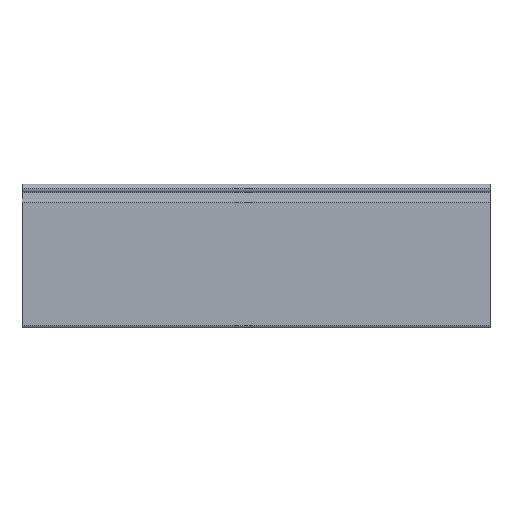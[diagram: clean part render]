
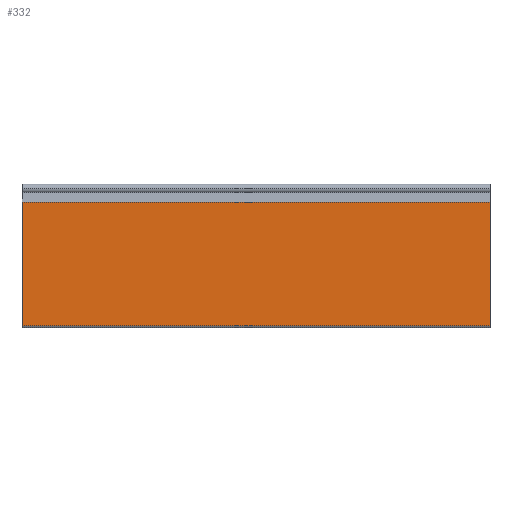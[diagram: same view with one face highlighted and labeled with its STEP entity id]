
A CAD part, top view. The second image highlights one B-rep face of the part: STEP entity #332.
In plain terms, the highlighted planar face has unit normal (0, 0, 1).
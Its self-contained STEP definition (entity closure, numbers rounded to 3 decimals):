
#28 = EDGE_CURVE ( 'NONE', #807, #475, #699, .T. ) ;
#99 = CARTESIAN_POINT ( 'NONE',  ( 208., -121.663, 4.05 ) ) ;
#100 = DIRECTION ( 'NONE',  ( -1., 0., 0. ) ) ;
#142 = PLANE ( 'NONE',  #598 ) ;
#159 = CARTESIAN_POINT ( 'NONE',  ( 208., -12.164, 4.05 ) ) ;
#168 = DIRECTION ( 'NONE',  ( 0., 0., -1. ) ) ;
#169 = DIRECTION ( 'NONE',  ( 0., 1., 0. ) ) ;
#247 = EDGE_CURVE ( 'NONE', #818, #485, #654, .T. ) ;
#260 = EDGE_CURVE ( 'NONE', #807, #818, #546, .T. ) ;
#261 = EDGE_CURVE ( 'NONE', #475, #485, #569, .T. ) ;
#332 = ADVANCED_FACE ( 'NONE', ( #445 ), #142, .F. ) ;
#445 = FACE_OUTER_BOUND ( 'NONE', #1093, .T. ) ;
#475 = VERTEX_POINT ( 'NONE', #902 ) ;
#485 = VERTEX_POINT ( 'NONE', #912 ) ;
#546 = LINE ( 'NONE', #1251, #567 ) ;
#567 = VECTOR ( 'NONE', #1248, 1000. ) ;
#569 = LINE ( 'NONE', #99, #570 ) ;
#570 = VECTOR ( 'NONE', #100, 1000. ) ;
#598 = AXIS2_PLACEMENT_3D ( 'NONE', #159, #168, #169 ) ;
#651 = VECTOR ( 'NONE', #1234, 1000. ) ;
#654 = LINE ( 'NONE', #1233, #651 ) ;
#699 = LINE ( 'NONE', #1122, #714 ) ;
#714 = VECTOR ( 'NONE', #1126, 1000. ) ;
#807 = VERTEX_POINT ( 'NONE', #968 ) ;
#818 = VERTEX_POINT ( 'NONE', #978 ) ;
#902 = CARTESIAN_POINT ( 'NONE',  ( 208., -121.663, 4.05 ) ) ;
#912 = CARTESIAN_POINT ( 'NONE',  ( -208., -121.663, 4.05 ) ) ;
#968 = CARTESIAN_POINT ( 'NONE',  ( 208., -12.164, 4.05 ) ) ;
#978 = CARTESIAN_POINT ( 'NONE',  ( -208., -12.164, 4.05 ) ) ;
#1093 = EDGE_LOOP ( 'NONE', ( #1286, #1284, #1283, #1281 ) ) ;
#1122 = CARTESIAN_POINT ( 'NONE',  ( 208., -12.164, 4.05 ) ) ;
#1126 = DIRECTION ( 'NONE',  ( 0., -1., 0. ) ) ;
#1233 = CARTESIAN_POINT ( 'NONE',  ( -208., -12.164, 4.05 ) ) ;
#1234 = DIRECTION ( 'NONE',  ( 0., -1., 0. ) ) ;
#1248 = DIRECTION ( 'NONE',  ( -1., 0., 0. ) ) ;
#1251 = CARTESIAN_POINT ( 'NONE',  ( 208., -12.164, 4.05 ) ) ;
#1281 = ORIENTED_EDGE ( 'NONE', *, *, #260, .T. ) ;
#1283 = ORIENTED_EDGE ( 'NONE', *, *, #28, .F. ) ;
#1284 = ORIENTED_EDGE ( 'NONE', *, *, #261, .F. ) ;
#1286 = ORIENTED_EDGE ( 'NONE', *, *, #247, .T. ) ;
